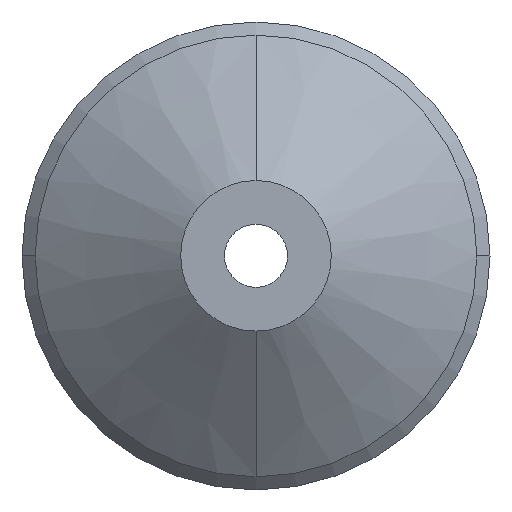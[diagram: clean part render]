
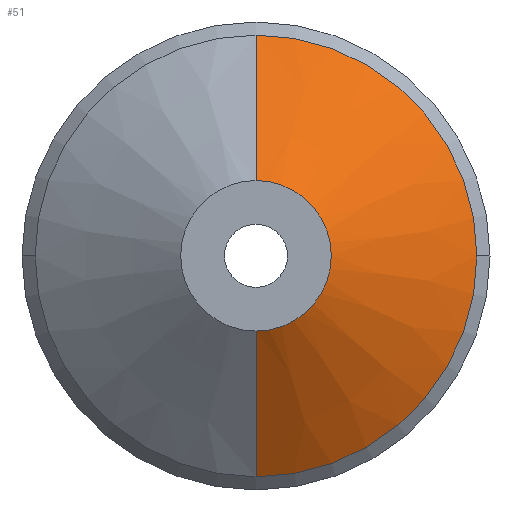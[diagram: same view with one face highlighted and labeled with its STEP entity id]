
A CAD part, top view. The second image highlights one B-rep face of the part: STEP entity #51.
In plain terms, the highlighted conical face has half-angle 54.256 degrees and reference radius 45.5 mm.
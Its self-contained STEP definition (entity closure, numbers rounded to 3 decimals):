
#51=ADVANCED_FACE('NONE',(#121),#122,.T.);
#121=FACE_OUTER_BOUND('',#213,.T.);
#122=CONICAL_SURFACE('',#214,45.5,0.947);
#213=EDGE_LOOP('',(#299,#300,#301,#302,#303));
#214=AXIS2_PLACEMENT_3D('',#304,#305,#306);
#299=ORIENTED_EDGE('',*,*,#512,.T.);
#300=ORIENTED_EDGE('',*,*,#513,.T.);
#301=ORIENTED_EDGE('',*,*,#514,.T.);
#302=ORIENTED_EDGE('',*,*,#515,.T.);
#303=ORIENTED_EDGE('',*,*,#516,.F.);
#304=CARTESIAN_POINT('',(0.0,0.,3.414));
#305=DIRECTION('',(0.0,-0.0,-1.0));
#306=DIRECTION('',(0.0,1.0,0.0));
#512=EDGE_CURVE('NONE',#593,#594,#595,.T.);
#513=EDGE_CURVE('NONE',#594,#596,#597,.T.);
#514=EDGE_CURVE('NONE',#596,#598,#599,.T.);
#515=EDGE_CURVE('NONE',#598,#600,#601,.T.);
#516=EDGE_CURVE('NONE',#593,#600,#602,.T.);
#593=VERTEX_POINT('NONE',#708);
#594=VERTEX_POINT('NONE',#709);
#595=CIRCLE('',#710,15.509);
#596=VERTEX_POINT('NONE',#711);
#597=LINE('',#712,#713);
#598=VERTEX_POINT('NONE',#714);
#599=CIRCLE('',#715,45.5);
#600=VERTEX_POINT('NONE',#716);
#601=CIRCLE('',#717,45.5);
#602=LINE('',#718,#719);
#708=CARTESIAN_POINT('',(0.0,15.509,25.0));
#709=CARTESIAN_POINT('',(0.,-15.509,25.0));
#710=AXIS2_PLACEMENT_3D('',#842,#843,#844);
#711=CARTESIAN_POINT('',(0.,-45.5,3.414));
#712=CARTESIAN_POINT('',(0.,-45.5,3.414));
#713=VECTOR('',#845,1000.0);
#714=CARTESIAN_POINT('',(45.5,0.,3.414));
#715=AXIS2_PLACEMENT_3D('',#846,#847,#848);
#716=CARTESIAN_POINT('',(0.0,45.5,3.414));
#717=AXIS2_PLACEMENT_3D('',#849,#850,#851);
#718=CARTESIAN_POINT('',(0.0,45.5,3.414));
#719=VECTOR('',#852,1000.0);
#842=CARTESIAN_POINT('',(0.0,0.,25.0));
#843=DIRECTION('',(0.0,0.0,-1.0));
#844=DIRECTION('',(0.0,1.0,0.0));
#845=DIRECTION('',(0.,-0.812,-0.584));
#846=CARTESIAN_POINT('',(0.0,0.0,3.414));
#847=DIRECTION('',(0.0,-0.0,1.0));
#848=DIRECTION('',(1.0,0.,0.0));
#849=CARTESIAN_POINT('',(0.0,0.0,3.414));
#850=DIRECTION('',(0.0,-0.0,1.0));
#851=DIRECTION('',(1.0,0.,0.0));
#852=DIRECTION('',(0.0,0.812,-0.584));
